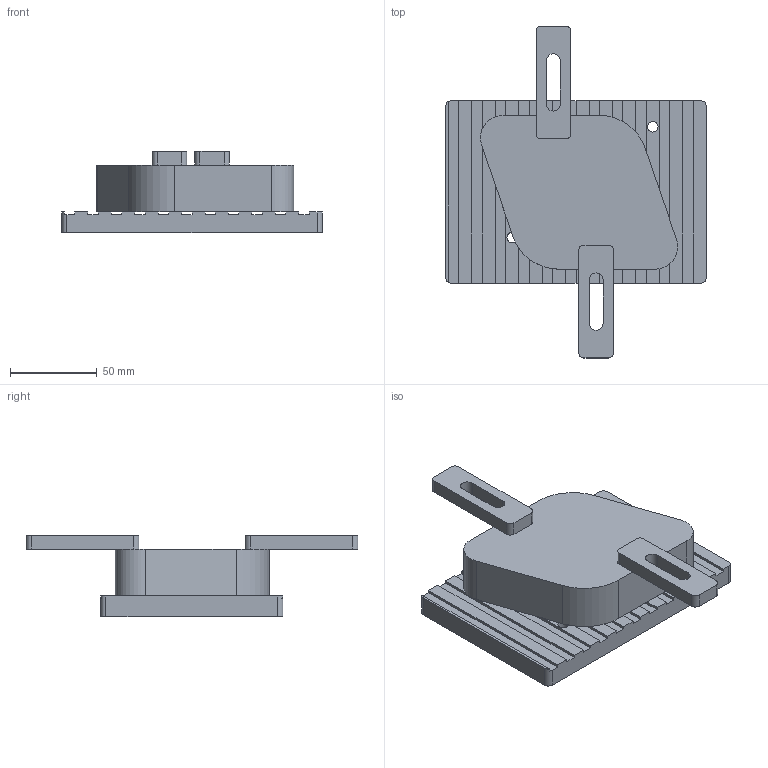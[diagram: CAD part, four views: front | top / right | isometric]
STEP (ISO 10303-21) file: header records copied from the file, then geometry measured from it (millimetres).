
FILE_DESCRIPTION((' '),'2;1');
FILE_NAME( 'Solid Assignment Assembly.STEP', '2023-02-14T10:30:40', (' '), ('--- Datakit www.datakit.com---'), ' Datakit CrossCadWare V2022.3 Jun 16 2022', 'GO2cam V6.10', ' ');
FILE_SCHEMA(('AUTOMOTIVE_DESIGN { 1 0 10303 214 1 1 1 1 }'));
Length unit declared in the file: millimetre
Products named in the file (1): part
Bounding box: 150 x 191.19 x 47 mm (x, y, z)
Volume: 530566.3 mm3; surface area: 98938.5 mm2
Topology: 5 solids, 5 shells, 172 faces, 458 edges, 302 vertices
Faces by surface type: plane 109, cylinder 60, cone 2, bspline 1
Entity records: 5530 total; most frequent: CARTESIAN_POINT 1043, DIRECTION 925, ORIENTED_EDGE 916, EDGE_CURVE 458, VECTOR 329, LINE 329, VERTEX_POINT 302, AXIS2_PLACEMENT_3D 298
